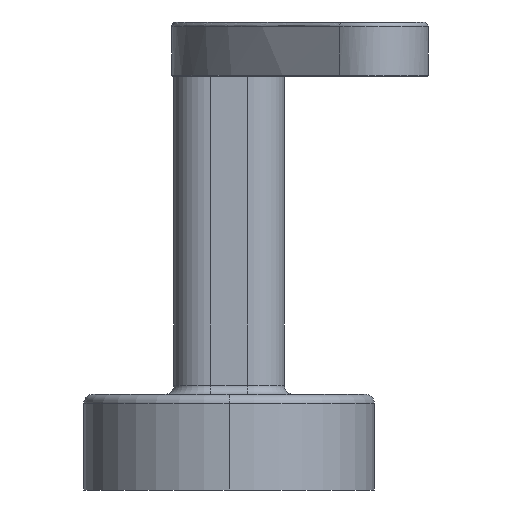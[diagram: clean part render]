
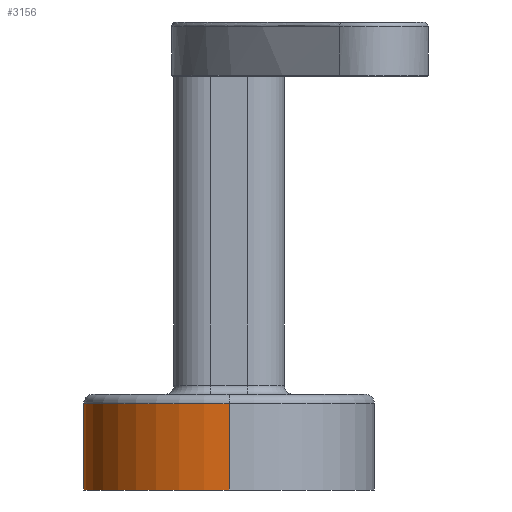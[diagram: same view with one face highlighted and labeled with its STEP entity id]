
A CAD part, left-side view. The second image highlights one B-rep face of the part: STEP entity #3156.
In plain terms, the highlighted cylindrical face has radius 16 mm (diameter 32 mm), a partial arc.
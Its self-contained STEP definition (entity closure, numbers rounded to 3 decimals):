
#32 = CARTESIAN_POINT ( 'NONE',  ( -16.375, -0.2, 0. ) ) ;
#35 = CARTESIAN_POINT ( 'NONE',  ( -16.375, 15.8, 0. ) ) ;
#60 = ORIENTED_EDGE ( 'NONE', *, *, #1943, .F. ) ;
#66 = AXIS2_PLACEMENT_3D ( 'NONE', #32, #744, #2964 ) ;
#280 = EDGE_CURVE ( 'NONE', #3096, #330, #729, .T. ) ;
#330 = VERTEX_POINT ( 'NONE', #1262 ) ;
#355 = VERTEX_POINT ( 'NONE', #35 ) ;
#370 = DIRECTION ( 'NONE',  ( 0., 0., -1. ) ) ;
#699 = ORIENTED_EDGE ( 'NONE', *, *, #280, .T. ) ;
#729 = CIRCLE ( 'NONE', #2390, 16. ) ;
#744 = DIRECTION ( 'NONE',  ( 0., 0., -1. ) ) ;
#1048 = CIRCLE ( 'NONE', #66, 16. ) ;
#1053 = CYLINDRICAL_SURFACE ( 'NONE', #1668, 16. ) ;
#1073 = DIRECTION ( 'NONE',  ( -1., 0., 0. ) ) ;
#1225 = DIRECTION ( 'NONE',  ( 0., 0., -1. ) ) ;
#1247 = VECTOR ( 'NONE', #370, 1000. ) ;
#1249 = FACE_OUTER_BOUND ( 'NONE', #2679, .T. ) ;
#1262 = CARTESIAN_POINT ( 'NONE',  ( -16.375, 15.8, 9.4 ) ) ;
#1319 = DIRECTION ( 'NONE',  ( 0., 0., -1. ) ) ;
#1332 = DIRECTION ( 'NONE',  ( 0., 0., 1. ) ) ;
#1357 = LINE ( 'NONE', #2804, #2905 ) ;
#1364 = ORIENTED_EDGE ( 'NONE', *, *, #2682, .F. ) ;
#1469 = DIRECTION ( 'NONE',  ( -1., 0., 0. ) ) ;
#1620 = VERTEX_POINT ( 'NONE', #2246 ) ;
#1668 = AXIS2_PLACEMENT_3D ( 'NONE', #2801, #1319, #1073 ) ;
#1906 = LINE ( 'NONE', #3106, #1247 ) ;
#1943 = EDGE_CURVE ( 'NONE', #1620, #355, #1048, .T. ) ;
#2029 = ORIENTED_EDGE ( 'NONE', *, *, #2174, .F. ) ;
#2174 = EDGE_CURVE ( 'NONE', #355, #330, #1357, .T. ) ;
#2246 = CARTESIAN_POINT ( 'NONE',  ( -32.374, 0., 0. ) ) ;
#2390 = AXIS2_PLACEMENT_3D ( 'NONE', #2699, #1225, #1469 ) ;
#2550 = CARTESIAN_POINT ( 'NONE',  ( -32.374, 0., 9.4 ) ) ;
#2679 = EDGE_LOOP ( 'NONE', ( #1364, #699, #2029, #60 ) ) ;
#2682 = EDGE_CURVE ( 'NONE', #3096, #1620, #1906, .T. ) ;
#2699 = CARTESIAN_POINT ( 'NONE',  ( -16.375, -0.2, 9.4 ) ) ;
#2801 = CARTESIAN_POINT ( 'NONE',  ( -16.375, -0.2, 10.4 ) ) ;
#2804 = CARTESIAN_POINT ( 'NONE',  ( -16.375, 15.8, 10.4 ) ) ;
#2905 = VECTOR ( 'NONE', #1332, 1000. ) ;
#2964 = DIRECTION ( 'NONE',  ( -1., 0., 0. ) ) ;
#3096 = VERTEX_POINT ( 'NONE', #2550 ) ;
#3106 = CARTESIAN_POINT ( 'NONE',  ( -32.374, 0., 5.2 ) ) ;
#3156 = ADVANCED_FACE ( 'NONE', ( #1249 ), #1053, .T. ) ;
